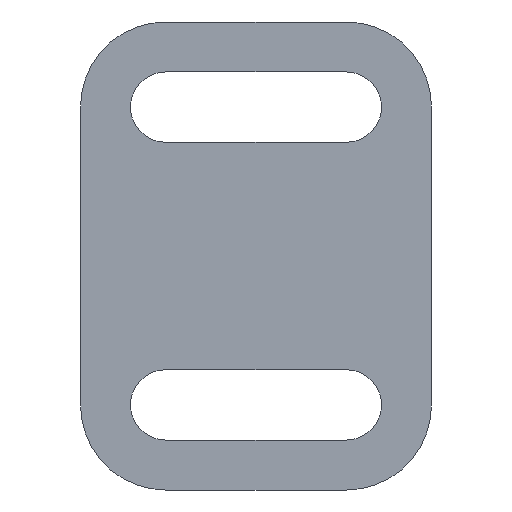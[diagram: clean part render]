
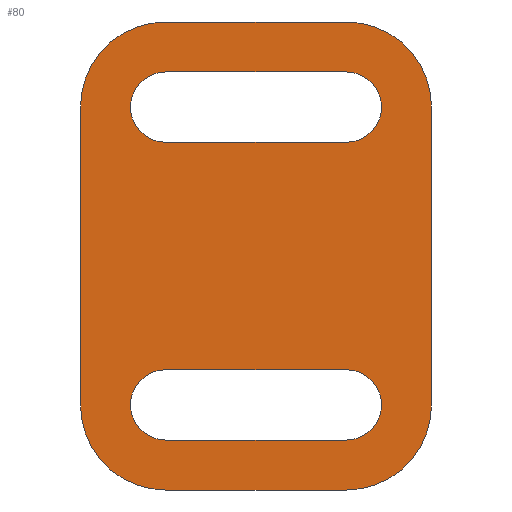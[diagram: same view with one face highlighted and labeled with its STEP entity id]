
A CAD part, front view. The second image highlights one B-rep face of the part: STEP entity #80.
In plain terms, the highlighted planar face has unit normal (0, -1, 0).
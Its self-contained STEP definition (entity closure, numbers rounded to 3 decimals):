
#80 = ADVANCED_FACE( '', ( #117, #118, #119 ), #120, .F. );
#117 = FACE_BOUND( '', #180, .T. );
#118 = FACE_OUTER_BOUND( '', #181, .T. );
#119 = FACE_BOUND( '', #182, .T. );
#120 = PLANE( '', #183 );
#180 = EDGE_LOOP( '', ( #274, #275, #276, #277 ) );
#181 = EDGE_LOOP( '', ( #278, #279, #280, #281, #282, #283, #284, #285 ) );
#182 = EDGE_LOOP( '', ( #286, #287, #288, #289 ) );
#183 = AXIS2_PLACEMENT_3D( '', #290, #291, #292 );
#274 = ORIENTED_EDGE( '', *, *, #481, .T. );
#275 = ORIENTED_EDGE( '', *, *, #482, .T. );
#276 = ORIENTED_EDGE( '', *, *, #483, .T. );
#277 = ORIENTED_EDGE( '', *, *, #484, .T. );
#278 = ORIENTED_EDGE( '', *, *, #485, .F. );
#279 = ORIENTED_EDGE( '', *, *, #486, .F. );
#280 = ORIENTED_EDGE( '', *, *, #487, .F. );
#281 = ORIENTED_EDGE( '', *, *, #488, .F. );
#282 = ORIENTED_EDGE( '', *, *, #489, .F. );
#283 = ORIENTED_EDGE( '', *, *, #490, .F. );
#284 = ORIENTED_EDGE( '', *, *, #467, .F. );
#285 = ORIENTED_EDGE( '', *, *, #491, .F. );
#286 = ORIENTED_EDGE( '', *, *, #492, .T. );
#287 = ORIENTED_EDGE( '', *, *, #493, .T. );
#288 = ORIENTED_EDGE( '', *, *, #494, .T. );
#289 = ORIENTED_EDGE( '', *, *, #495, .T. );
#290 = CARTESIAN_POINT( '', ( 4., 0., -7. ) );
#291 = DIRECTION( '', ( 0., 1., 0. ) );
#292 = DIRECTION( '', ( 0., 0., 1. ) );
#467 = EDGE_CURVE( '', #550, #551, #552, .T. );
#481 = EDGE_CURVE( '', #577, #578, #579, .T. );
#482 = EDGE_CURVE( '', #578, #580, #581, .T. );
#483 = EDGE_CURVE( '', #580, #582, #583, .T. );
#484 = EDGE_CURVE( '', #582, #577, #584, .T. );
#485 = EDGE_CURVE( '', #585, #586, #587, .T. );
#486 = EDGE_CURVE( '', #588, #585, #589, .T. );
#487 = EDGE_CURVE( '', #590, #588, #591, .T. );
#488 = EDGE_CURVE( '', #592, #590, #593, .T. );
#489 = EDGE_CURVE( '', #594, #592, #595, .T. );
#490 = EDGE_CURVE( '', #551, #594, #596, .T. );
#491 = EDGE_CURVE( '', #586, #550, #597, .T. );
#492 = EDGE_CURVE( '', #598, #599, #600, .T. );
#493 = EDGE_CURVE( '', #599, #601, #602, .T. );
#494 = EDGE_CURVE( '', #601, #603, #604, .T. );
#495 = EDGE_CURVE( '', #603, #598, #605, .T. );
#550 = VERTEX_POINT( '', #673 );
#551 = VERTEX_POINT( '', #674 );
#552 = CIRCLE( '', #675, 4. );
#577 = VERTEX_POINT( '', #708 );
#578 = VERTEX_POINT( '', #709 );
#579 = LINE( '', #710, #711 );
#580 = VERTEX_POINT( '', #712 );
#581 = CIRCLE( '', #713, 1.65 );
#582 = VERTEX_POINT( '', #714 );
#583 = LINE( '', #715, #716 );
#584 = CIRCLE( '', #717, 1.65 );
#585 = VERTEX_POINT( '', #718 );
#586 = VERTEX_POINT( '', #719 );
#587 = CIRCLE( '', #720, 4. );
#588 = VERTEX_POINT( '', #721 );
#589 = LINE( '', #722, #723 );
#590 = VERTEX_POINT( '', #724 );
#591 = CIRCLE( '', #725, 4. );
#592 = VERTEX_POINT( '', #726 );
#593 = LINE( '', #727, #728 );
#594 = VERTEX_POINT( '', #729 );
#595 = CIRCLE( '', #730, 4. );
#596 = LINE( '', #731, #732 );
#597 = LINE( '', #733, #734 );
#598 = VERTEX_POINT( '', #735 );
#599 = VERTEX_POINT( '', #736 );
#600 = LINE( '', #737, #738 );
#601 = VERTEX_POINT( '', #739 );
#602 = CIRCLE( '', #740, 1.65 );
#603 = VERTEX_POINT( '', #741 );
#604 = LINE( '', #742, #743 );
#605 = CIRCLE( '', #744, 1.65 );
#673 = CARTESIAN_POINT( '', ( 4., 0., -11. ) );
#674 = CARTESIAN_POINT( '', ( 0., 0., -7. ) );
#675 = AXIS2_PLACEMENT_3D( '', #829, #830, #831 );
#708 = CARTESIAN_POINT( '', ( 12.5, 0., -8.65 ) );
#709 = CARTESIAN_POINT( '', ( 4., 0., -8.65 ) );
#710 = CARTESIAN_POINT( '', ( 12.5, 0., -8.65 ) );
#711 = VECTOR( '', #855, 1000. );
#712 = CARTESIAN_POINT( '', ( 4., 0., -5.35 ) );
#713 = AXIS2_PLACEMENT_3D( '', #856, #857, #858 );
#714 = CARTESIAN_POINT( '', ( 12.5, 0., -5.35 ) );
#715 = CARTESIAN_POINT( '', ( 4., 0., -5.35 ) );
#716 = VECTOR( '', #859, 1000. );
#717 = AXIS2_PLACEMENT_3D( '', #860, #861, #862 );
#718 = CARTESIAN_POINT( '', ( 16.5, 0., -7. ) );
#719 = CARTESIAN_POINT( '', ( 12.5, 0., -11. ) );
#720 = AXIS2_PLACEMENT_3D( '', #863, #864, #865 );
#721 = CARTESIAN_POINT( '', ( 16.5, 0., 7. ) );
#722 = CARTESIAN_POINT( '', ( 16.5, 0., 7. ) );
#723 = VECTOR( '', #866, 1000. );
#724 = CARTESIAN_POINT( '', ( 12.5, 0., 11. ) );
#725 = AXIS2_PLACEMENT_3D( '', #867, #868, #869 );
#726 = CARTESIAN_POINT( '', ( 4., 0., 11. ) );
#727 = CARTESIAN_POINT( '', ( 4., 0., 11. ) );
#728 = VECTOR( '', #870, 1000. );
#729 = CARTESIAN_POINT( '', ( 0., 0., 7. ) );
#730 = AXIS2_PLACEMENT_3D( '', #871, #872, #873 );
#731 = CARTESIAN_POINT( '', ( 0., 0., -7. ) );
#732 = VECTOR( '', #874, 1000. );
#733 = CARTESIAN_POINT( '', ( 12.5, 0., -11. ) );
#734 = VECTOR( '', #875, 1000. );
#735 = CARTESIAN_POINT( '', ( 12.5, 0., 5.35 ) );
#736 = CARTESIAN_POINT( '', ( 4., 0., 5.35 ) );
#737 = CARTESIAN_POINT( '', ( 12.5, 0., 5.35 ) );
#738 = VECTOR( '', #876, 1000. );
#739 = CARTESIAN_POINT( '', ( 4., 0., 8.65 ) );
#740 = AXIS2_PLACEMENT_3D( '', #877, #878, #879 );
#741 = CARTESIAN_POINT( '', ( 12.5, 0., 8.65 ) );
#742 = CARTESIAN_POINT( '', ( 4., 0., 8.65 ) );
#743 = VECTOR( '', #880, 1000. );
#744 = AXIS2_PLACEMENT_3D( '', #881, #882, #883 );
#829 = CARTESIAN_POINT( '', ( 4., 0., -7. ) );
#830 = DIRECTION( '', ( 0., 1., 0. ) );
#831 = DIRECTION( '', ( 1., 0., 0. ) );
#855 = DIRECTION( '', ( -1., 0., 0. ) );
#856 = CARTESIAN_POINT( '', ( 4., 0., -7. ) );
#857 = DIRECTION( '', ( 0., 1., 0. ) );
#858 = DIRECTION( '', ( 1., 0., 0. ) );
#859 = DIRECTION( '', ( 1., 0., 0. ) );
#860 = CARTESIAN_POINT( '', ( 12.5, 0., -7. ) );
#861 = DIRECTION( '', ( 0., 1., 0. ) );
#862 = DIRECTION( '', ( 1., 0., 0. ) );
#863 = CARTESIAN_POINT( '', ( 12.5, 0., -7. ) );
#864 = DIRECTION( '', ( 0., 1., 0. ) );
#865 = DIRECTION( '', ( 1., 0., 0. ) );
#866 = DIRECTION( '', ( 0., 0., -1. ) );
#867 = CARTESIAN_POINT( '', ( 12.5, 0., 7. ) );
#868 = DIRECTION( '', ( 0., 1., 0. ) );
#869 = DIRECTION( '', ( 1., 0., 0. ) );
#870 = DIRECTION( '', ( 1., 0., 0. ) );
#871 = CARTESIAN_POINT( '', ( 4., 0., 7. ) );
#872 = DIRECTION( '', ( 0., 1., 0. ) );
#873 = DIRECTION( '', ( 1., 0., 0. ) );
#874 = DIRECTION( '', ( 0., 0., 1. ) );
#875 = DIRECTION( '', ( -1., 0., 0. ) );
#876 = DIRECTION( '', ( -1., 0., 0. ) );
#877 = CARTESIAN_POINT( '', ( 4., 0., 7. ) );
#878 = DIRECTION( '', ( 0., 1., 0. ) );
#879 = DIRECTION( '', ( 1., 0., 0. ) );
#880 = DIRECTION( '', ( 1., 0., 0. ) );
#881 = CARTESIAN_POINT( '', ( 12.5, 0., 7. ) );
#882 = DIRECTION( '', ( 0., 1., 0. ) );
#883 = DIRECTION( '', ( 1., 0., 0. ) );
